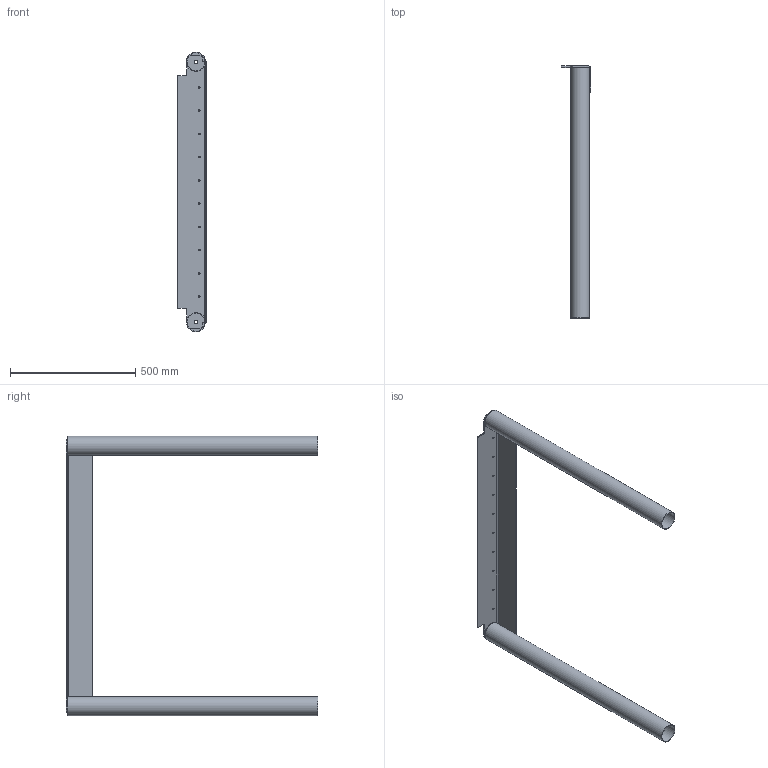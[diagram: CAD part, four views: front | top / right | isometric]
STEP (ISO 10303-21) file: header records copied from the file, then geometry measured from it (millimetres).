
FILE_DESCRIPTION(/* description */ (''),/* implementation_level */ '2;1');
FILE_NAME(/* name */ 'F:\_Inventor\- Tegningsmateriale - kunder\PlayNsafe\PlayNsafe Rutchebaner\terrænmonteringssæt\TM-100-001.stp',/* time_stamp */ '2026-09-07T10:36:25+02:00',/* author */ ('jm'),/* organization */ (''),/* preprocessor_version */ 'ST-DEVELOPER v18.1',/* originating_system */ 'Autodesk Inventor 2022',/* authorisation */ '');
FILE_SCHEMA (('AUTOMOTIVE_DESIGN { 1 0 10303 214 3 1 1 }'));
Length unit declared in the file: millimetre
Products named in the file (4): TM-100-001; ende plade til rør til jord montering; rør til jord montering; terrænmonterings flange
Assembly tree (5 placements, depth 2):
  TM-100-001
    ende plade til rør til jord montering  x2
    rør til jord montering  x2
    terrænmonterings flange
Bounding box: 118 x 1007 x 1117.48 mm (x, y, z)
Volume: 2058853.6 mm3; surface area: 1408777.2 mm2
Topology: 5 solids, 5 shells, 60 faces, 142 edges, 92 vertices
Faces by surface type: cylinder 32, plane 28
Full cylindrical faces by diameter (mm): 6.5 x10, 13 x2, 14 x2, 72 x2, 74 x2, 76 x2
Entity records: 1783 total; most frequent: DIRECTION 308, CARTESIAN_POINT 275, ORIENTED_EDGE 260, EDGE_CURVE 130, AXIS2_PLACEMENT_3D 117, VERTEX_POINT 84, EDGE_LOOP 80, LINE 74
